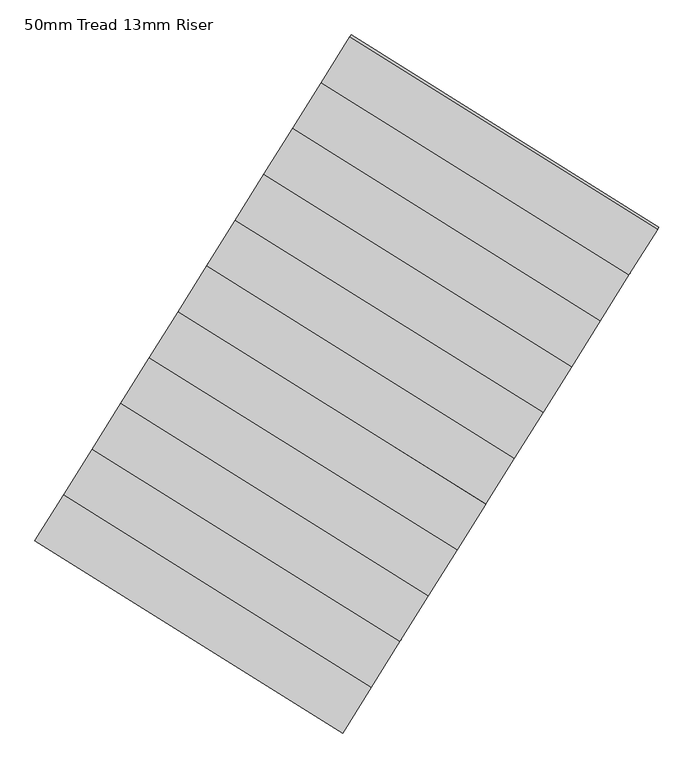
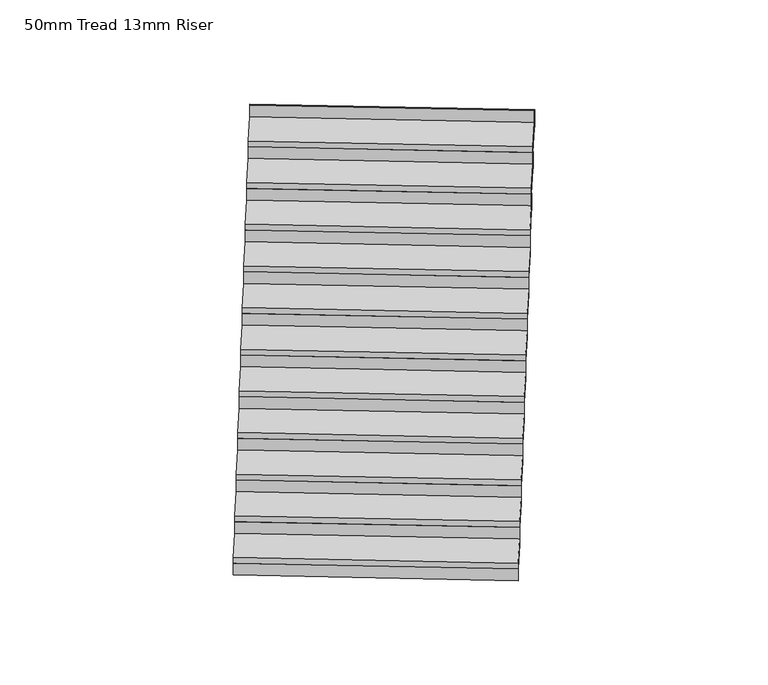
"""IFC4 building model written with IfcOpenShell, lengths in millimetres: stair flight geometry, 50mm Tread 13mm Riser."""

import ifcopenshell
import ifcopenshell.guid

model = None  # the IFC model being written
_history = None  # IfcOwnerHistory: only IFC2X3 demands one
_inside = {}  # id of a spatial element -> (the spatial element, [elements in it])
_under = {}  # id of a project, library or spatial element -> (it, [spatial elements below it])
_declared = {}  # id of a project -> (the project, [libraries it declares])
_typed = {}  # id of a type object -> (the type object, [elements of that type])
_made_of = {}  # id of a material, layer set ... -> (it, [elements and type objects made of it])


def new_model(schema):
    """Start an empty IFC model of exactly this schema.

    Asked for "IFC4X3", IfcOpenShell would pick the latest addendum, in which some entities
    have other attributes; the version numbers below select the first issue.
    IFC2X3 requires an IfcOwnerHistory on every rooted entity: one is made here for all.
    """
    global model, _history
    if schema == "IFC4X3":
        model = ifcopenshell.file(schema_version=(4, 3, 0, 0))
    else:
        model = ifcopenshell.file(schema=schema)
    _inside.clear()
    _under.clear()
    _declared.clear()
    _typed.clear()
    _made_of.clear()
    _history = None
    if model.schema == "IFC2X3":
        org = make("IfcOrganization", Name="unknown")
        user = make(
            "IfcPersonAndOrganization",
            ThePerson=make("IfcPerson", FamilyName="unknown"),
            TheOrganization=org,
        )
        app = make(
            "IfcApplication",
            ApplicationDeveloper=org,
            Version="unknown",
            ApplicationFullName="unknown",
            ApplicationIdentifier="unknown",
        )
        _history = make(
            "IfcOwnerHistory",
            OwningUser=user,
            OwningApplication=app,
            ChangeAction="ADDED",
            CreationDate=0,
        )
    return model


def make(cls, **values):
    """One entity of the class cls with the attributes given. An attribute that is None is left unset."""
    return model.create_entity(
        cls, **{name: value for name, value in values.items() if value is not None}
    )


def rooted(cls, **values):
    """An entity with a GlobalId (a new one), such as an element, a storey or a relation."""
    return make(cls, GlobalId=ifcopenshell.guid.new(), OwnerHistory=_history, **values)


def si_unit(unit_type, name, prefix=None):
    """IfcSIUnit, for example si_unit("LENGTHUNIT", "METRE", prefix="MILLI")."""
    return make("IfcSIUnit", UnitType=unit_type, Prefix=prefix, Name=name)


def assignment(units):
    """IfcUnitAssignment: the units of a project."""
    return None if units is None else make("IfcUnitAssignment", Units=units)


def point(xyz):
    """IfcCartesianPoint."""
    return None if xyz is None else make("IfcCartesianPoint", Coordinates=xyz)


def direction(xyz):
    """IfcDirection."""
    return None if xyz is None else make("IfcDirection", DirectionRatios=xyz)


def frame(location, z_axis=None, x_axis=None):
    """IfcAxis2Placement3D, a coordinate frame: its origin and axes. An axis left out is left unset."""
    return make(
        "IfcAxis2Placement3D",
        Location=point(location),
        Axis=direction(z_axis),
        RefDirection=direction(x_axis),
    )


def origin():
    """The frame at (0, 0, 0) with its axes left unset."""
    return frame((0.0, 0.0, 0.0))


def origin_with_axes():
    """The frame at (0, 0, 0) with the z axis (0, 0, 1) and the x axis (1, 0, 0) written out."""
    return frame((0.0, 0.0, 0.0), z_axis=(0.0, 0.0, 1.0), x_axis=(1.0, 0.0, 0.0))


def place(relative_to, where):
    """IfcLocalPlacement: puts the frame where relative to a parent placement (None: the world)."""
    return make(
        "IfcLocalPlacement", PlacementRelTo=relative_to, RelativePlacement=where
    )


def context(
    kind, dimensions, precision=None, world=None, true_north=None, identifier=None
):
    """IfcGeometricRepresentationContext, for example the 3D "Model" context."""
    return make(
        "IfcGeometricRepresentationContext",
        ContextIdentifier=identifier,
        ContextType=kind,
        CoordinateSpaceDimension=dimensions,
        Precision=precision,
        WorldCoordinateSystem=world,
        TrueNorth=true_north,
    )


def project(units=None, contexts=None):
    """IfcProject with its units and contexts."""
    return rooted(
        "IfcProject",
        Name="project",
        RepresentationContexts=contexts,
        UnitsInContext=assignment(units),
    )


def spatial(cls, under=None, at=None, **own):
    """A site, building, storey or space (cls), placed at a placement, below another one or the project."""
    s = rooted(cls, ObjectPlacement=at, **own)
    if under is not None:
        _under.setdefault(under.id(), (under, []))[1].append(s)
    return s


def polyline(points):
    """IfcPolyline through the points."""
    return make("IfcPolyline", Points=[point(p) for p in points])


def outline(outer, holes=None, kind="AREA"):
    """IfcArbitraryClosedProfileDef: a profile drawn as a closed curve; with holes, ...WithVoids."""
    if holes is None:
        return make("IfcArbitraryClosedProfileDef", ProfileType=kind, OuterCurve=outer)
    return make(
        "IfcArbitraryProfileDefWithVoids",
        ProfileType=kind,
        OuterCurve=outer,
        InnerCurves=holes,
    )


def extrude(swept, where, along, depth):
    """IfcExtrudedAreaSolid: the profile swept, set in the frame where, extruded along a direction by depth."""
    return make(
        "IfcExtrudedAreaSolid",
        SweptArea=swept,
        Position=where,
        ExtrudedDirection=direction(along),
        Depth=depth,
    )


def shape(context_of_items, identifier, shape_type, items):
    """IfcShapeRepresentation: the items that make up one representation, for example the "Body"."""
    return make(
        "IfcShapeRepresentation",
        ContextOfItems=context_of_items,
        RepresentationIdentifier=identifier,
        RepresentationType=shape_type,
        Items=items,
    )


def source(mapping_origin, context_of_items, identifier, shape_type, items):
    """IfcRepresentationMap: a shape defined once, which mapped items show again and again."""
    return make(
        "IfcRepresentationMap",
        MappingOrigin=mapping_origin,
        MappedRepresentation=shape(context_of_items, identifier, shape_type, items),
    )


def transform(
    local_origin,
    x_axis=None,
    y_axis=None,
    z_axis=None,
    scale=None,
    scale2=None,
    scale3=None,
    uniform=True,
):
    """IfcCartesianTransformationOperator3D, or its non-uniform kind. x_axis, y_axis, z_axis: its Axis1, 2, 3."""
    if uniform:
        return make(
            "IfcCartesianTransformationOperator3D",
            Axis1=direction(x_axis),
            Axis2=direction(y_axis),
            LocalOrigin=point(local_origin),
            Scale=scale,
            Axis3=direction(z_axis),
        )
    return make(
        "IfcCartesianTransformationOperator3DnonUniform",
        Axis1=direction(x_axis),
        Axis2=direction(y_axis),
        LocalOrigin=point(local_origin),
        Scale=scale,
        Axis3=direction(z_axis),
        Scale2=scale2,
        Scale3=scale3,
    )


def mapped(mapping_source, mapping_target):
    """IfcMappedItem: shows the shape of a source again, moved by a transform."""
    return make(
        "IfcMappedItem", MappingSource=mapping_source, MappingTarget=mapping_target
    )


def made_of(thing, what):
    """Note that an element or type object is made of a material, layer set ...; save() writes the relation."""
    if what is not None:
        _made_of.setdefault(what.id(), (what, []))[1].append(thing)
    return thing


def element(
    cls,
    number,
    at=None,
    inside=None,
    cuts=None,
    type_object=None,
    material=None,
    context=None,
    identifier="Body",
    shape_type=None,
    held_by="IfcProductDefinitionShape",
    body=None,
    shapes=None,
    **own,
):
    """One element of the class cls, such as IfcWall. Its Tag is "e" and its number.

    at: its placement. inside: the storey or other place that contains it. cuts: it is an
    opening in that element (IfcRelVoidsElement). A single representation is given by context,
    identifier, shape_type and body (its items); several are given by shapes. held_by: the class
    of the entity that holds the representations. save() writes the other relations.
    """
    e = rooted(cls, Tag="e%d" % number, ObjectPlacement=at, **own)
    if body is not None:
        shapes = [shape(context, identifier, shape_type, body)]
    if shapes is not None:
        e.Representation = make(held_by, Representations=shapes)
    if inside is not None:
        _inside.setdefault(inside.id(), (inside, []))[1].append(e)
    if cuts is not None:
        rooted(
            "IfcRelVoidsElement", RelatingBuildingElement=cuts, RelatedOpeningElement=e
        )
    if type_object is not None:
        _typed.setdefault(type_object.id(), (type_object, []))[1].append(e)
    return made_of(e, material)


def aggregate(whole, parts):
    """IfcRelAggregates: a whole, such as a stair, and the parts it consists of."""
    return rooted("IfcRelAggregates", RelatingObject=whole, RelatedObjects=parts)


def save(model, path):
    """Write the relations noted so far, then the file.

    IfcRelAggregates (storeys below a building ...), IfcRelContainedInSpatialStructure (elements
    in a storey), IfcRelDefinesByType, IfcRelAssociatesMaterial and IfcRelDeclares: one each for
    every whole, place, type object, material and project.
    """
    for whole, parts in _under.values():
        aggregate(whole, parts)
    for where, things in _inside.values():
        rooted(
            "IfcRelContainedInSpatialStructure",
            RelatedElements=things,
            RelatingStructure=where,
        )
    for kind, things in _typed.values():
        rooted("IfcRelDefinesByType", RelatedObjects=things, RelatingType=kind)
    for what, things in _made_of.values():
        rooted("IfcRelAssociatesMaterial", RelatedObjects=things, RelatingMaterial=what)
    for by, libraries in _declared.values():
        rooted("IfcRelDeclares", RelatingContext=by, RelatedDefinitions=libraries)
    model.write(path)


def stair_flight_50mm_tread_13mm_riser_e71ca955(model_context):
    return source(origin(), model_context, "Body", "SweptSolid", [
        extrude(outline(polyline([(45890.1107141, -53305.0621823), (45883.4867233, -53315.6627835), (44174.7077702, -52247.8991865), (44181.331761, -52237.2985853), (45890.1107141, -53305.0621823)])), origin_with_axes(), (0.0, 0.0, 1.0), 100.0),
        extrude(outline(polyline([(44333.6835494, -51993.4847577), (46042.4625025, -53061.2483547), (45883.4867233, -53315.6627835), (44174.7077702, -52247.8991865), (44333.6835494, -51993.4847577)])), frame((0.0, 0.0, 100.0), z_axis=(0.0, 0.0, 1.0), x_axis=(1.0, 0.0, 0.0)), (0.0, 0.0, 1.0), 50.0),
        extrude(outline(polyline([(46049.0864934, -53050.6477535), (46042.4625025, -53061.2483547), (44333.6835494, -51993.4847577), (44340.3075402, -51982.8841565), (46049.0864934, -53050.6477535)])), frame((0.0, 0.0, 100.0), z_axis=(0.0, 0.0, 1.0), x_axis=(1.0, 0.0, 0.0)), (0.0, 0.0, 1.0), 150.0),
        extrude(outline(polyline([(44492.6593287, -51739.0703288), (46201.4382818, -52806.8339258), (46042.4625025, -53061.2483547), (44333.6835494, -51993.4847577), (44492.6593287, -51739.0703288)])), frame((0.0, 0.0, 250.0), z_axis=(0.0, 0.0, 1.0), x_axis=(1.0, 0.0, 0.0)), (0.0, 0.0, 1.0), 50.0),
        extrude(outline(polyline([(46208.0622726, -52796.2333246), (46201.4382818, -52806.8339258), (44492.6593287, -51739.0703288), (44499.2833195, -51728.4697276), (46208.0622726, -52796.2333246)])), frame((0.0, 0.0, 250.0), z_axis=(0.0, 0.0, 1.0), x_axis=(1.0, 0.0, 0.0)), (0.0, 0.0, 1.0), 150.0),
        extrude(outline(polyline([(44651.635108, -51484.6559), (46360.4140611, -52552.419497), (46201.4382818, -52806.8339258), (44492.6593287, -51739.0703288), (44651.635108, -51484.6559)])), frame((0.0, 0.0, 400.0), z_axis=(0.0, 0.0, 1.0), x_axis=(1.0, 0.0, 0.0)), (0.0, 0.0, 1.0), 50.0),
        extrude(outline(polyline([(46367.0380519, -52541.8188958), (46360.4140611, -52552.419497), (44651.635108, -51484.6559), (44658.2590988, -51474.0552988), (46367.0380519, -52541.8188958)])), frame((0.0, 0.0, 400.0), z_axis=(0.0, 0.0, 1.0), x_axis=(1.0, 0.0, 0.0)), (0.0, 0.0, 1.0), 150.0),
        extrude(outline(polyline([(44810.6108873, -51230.2414711), (46519.3898404, -52298.0050681), (46360.4140611, -52552.419497), (44651.635108, -51484.6559), (44810.6108873, -51230.2414711)])), frame((0.0, 0.0, 550.0), z_axis=(0.0, 0.0, 1.0), x_axis=(1.0, 0.0, 0.0)), (0.0, 0.0, 1.0), 50.0),
        extrude(outline(polyline([(46526.0138312, -52287.4044669), (46519.3898404, -52298.0050681), (44810.6108873, -51230.2414711), (44817.2348781, -51219.6408699), (46526.0138312, -52287.4044669)])), frame((0.0, 0.0, 550.0), z_axis=(0.0, 0.0, 1.0), x_axis=(1.0, 0.0, 0.0)), (0.0, 0.0, 1.0), 150.0),
        extrude(outline(polyline([(44969.5866665, -50975.8270423), (46678.3656196, -52043.5906393), (46519.3898404, -52298.0050681), (44810.6108873, -51230.2414711), (44969.5866665, -50975.8270423)])), frame((0.0, 0.0, 700.0), z_axis=(0.0, 0.0, 1.0), x_axis=(1.0, 0.0, 0.0)), (0.0, 0.0, 1.0), 50.0),
        extrude(outline(polyline([(46684.9896104, -52032.9900381), (46678.3656196, -52043.5906393), (44969.5866665, -50975.8270423), (44976.2106573, -50965.2264411), (46684.9896104, -52032.9900381)])), frame((0.0, 0.0, 700.0), z_axis=(0.0, 0.0, 1.0), x_axis=(1.0, 0.0, 0.0)), (0.0, 0.0, 1.0), 150.0),
        extrude(outline(polyline([(45128.5624458, -50721.4126134), (46837.3413989, -51789.1762104), (46678.3656196, -52043.5906393), (44969.5866665, -50975.8270423), (45128.5624458, -50721.4126134)])), frame((0.0, 0.0, 850.0), z_axis=(0.0, 0.0, 1.0), x_axis=(1.0, 0.0, 0.0)), (0.0, 0.0, 1.0), 50.0),
        extrude(outline(polyline([(46843.9653897, -51778.5756092), (46837.3413989, -51789.1762104), (45128.5624458, -50721.4126134), (45135.1864366, -50710.8120122), (46843.9653897, -51778.5756092)])), frame((0.0, 0.0, 850.0), z_axis=(0.0, 0.0, 1.0), x_axis=(1.0, 0.0, 0.0)), (0.0, 0.0, 1.0), 150.0),
        extrude(outline(polyline([(45287.5382251, -50466.9981846), (46996.3171782, -51534.7617816), (46837.3413989, -51789.1762104), (45128.5624458, -50721.4126134), (45287.5382251, -50466.9981846)])), frame((0.0, 0.0, 1000.0), z_axis=(0.0, 0.0, 1.0), x_axis=(1.0, 0.0, 0.0)), (0.0, 0.0, 1.0), 50.0),
        extrude(outline(polyline([(47002.941169, -51524.1611804), (46996.3171782, -51534.7617816), (45287.5382251, -50466.9981846), (45294.1622159, -50456.3975834), (47002.941169, -51524.1611804)])), frame((0.0, 0.0, 1000.0), z_axis=(0.0, 0.0, 1.0), x_axis=(1.0, 0.0, 0.0)), (0.0, 0.0, 1.0), 150.0),
        extrude(outline(polyline([(45446.5140043, -50212.5837558), (47155.2929574, -51280.3473527), (46996.3171782, -51534.7617816), (45287.5382251, -50466.9981846), (45446.5140043, -50212.5837558)])), frame((0.0, 0.0, 1150.0), z_axis=(0.0, 0.0, 1.0), x_axis=(1.0, 0.0, 0.0)), (0.0, 0.0, 1.0), 50.0),
        extrude(outline(polyline([(47161.9169482, -51269.7467515), (47155.2929574, -51280.3473527), (45446.5140043, -50212.5837558), (45453.1379951, -50201.9831545), (47161.9169482, -51269.7467515)])), frame((0.0, 0.0, 1150.0), z_axis=(0.0, 0.0, 1.0), x_axis=(1.0, 0.0, 0.0)), (0.0, 0.0, 1.0), 150.0),
        extrude(outline(polyline([(45605.4897836, -49958.1693269), (47314.2687367, -51025.9329239), (47155.2929574, -51280.3473527), (45446.5140043, -50212.5837558), (45605.4897836, -49958.1693269)])), frame((0.0, 0.0, 1300.0), z_axis=(0.0, 0.0, 1.0), x_axis=(1.0, 0.0, 0.0)), (0.0, 0.0, 1.0), 50.0),
        extrude(outline(polyline([(47320.8927275, -51015.3323227), (47314.2687367, -51025.9329239), (45605.4897836, -49958.1693269), (45612.1137744, -49947.5687257), (47320.8927275, -51015.3323227)])), frame((0.0, 0.0, 1300.0), z_axis=(0.0, 0.0, 1.0), x_axis=(1.0, 0.0, 0.0)), (0.0, 0.0, 1.0), 150.0),
        extrude(outline(polyline([(45764.4655629, -49703.7548981), (47473.244516, -50771.518495), (47314.2687367, -51025.9329239), (45605.4897836, -49958.1693269), (45764.4655629, -49703.7548981)])), frame((0.0, 0.0, 1450.0), z_axis=(0.0, 0.0, 1.0), x_axis=(1.0, 0.0, 0.0)), (0.0, 0.0, 1.0), 50.0),
        extrude(outline(polyline([(47479.8685068, -50760.9178938), (47473.244516, -50771.518495), (45764.4655629, -49703.7548981), (45771.0895537, -49693.1542969), (47479.8685068, -50760.9178938)])), frame((0.0, 0.0, 1450.0), z_axis=(0.0, 0.0, 1.0), x_axis=(1.0, 0.0, 0.0)), (0.0, 0.0, 1.0), 150.0),
        extrude(outline(polyline([(47638.8442861, -50506.503465), (47632.2202952, -50517.1040662), (45923.4413421, -49449.3404692), (45930.0653329, -49438.739868), (47638.8442861, -50506.503465)])), frame((0.0, 0.0, 1600.0), z_axis=(0.0, 0.0, 1.0), x_axis=(1.0, 0.0, 0.0)), (0.0, 0.0, 1.0), 150.0),
        extrude(outline(polyline([(45923.4413421, -49449.3404692), (47632.2202952, -50517.1040662), (47473.244516, -50771.518495), (45764.4655629, -49703.7548981), (45923.4413421, -49449.3404692)])), frame((0.0, 0.0, 1600.0), z_axis=(0.0, 0.0, 1.0), x_axis=(1.0, 0.0, 0.0)), (0.0, 0.0, 1.0), 50.0),
    ])


if __name__ == "__main__":
    model = new_model("IFC4")
    model_context = context("Model", 3, world=origin())
    ifc_project = project(units=[si_unit("LENGTHUNIT", "METRE", prefix="MILLI")], contexts=[model_context])
    site = spatial("IfcSite", under=ifc_project)
    building = spatial("IfcBuilding", under=site)
    placement = place(None, origin())
    stair_flight_50mm_tread_13mm_riser_shape = stair_flight_50mm_tread_13mm_riser_e71ca955(model_context)
    element("IfcStairFlight", 1, ObjectType="50mm Tread 13mm Riser", at=placement, inside=building, context=model_context, shape_type="MappedRepresentation", body=[
        mapped(stair_flight_50mm_tread_13mm_riser_shape, transform((0.0, 0.0, 0.0), x_axis=(1.0, 0.0, 0.0), y_axis=(0.0, 1.0, 0.0), z_axis=(0.0, 0.0, 1.0))),
    ])
    save(model, "model.ifc")
